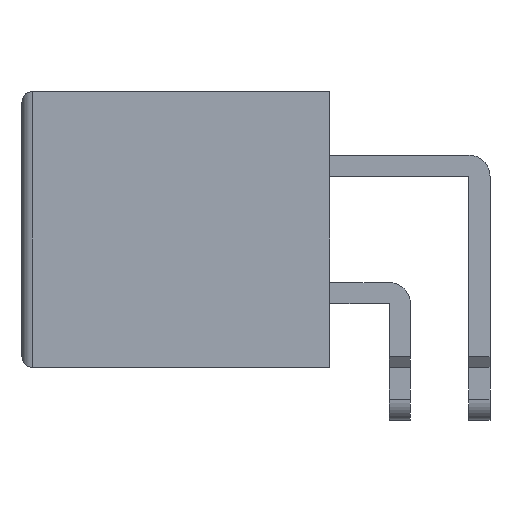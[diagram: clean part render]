
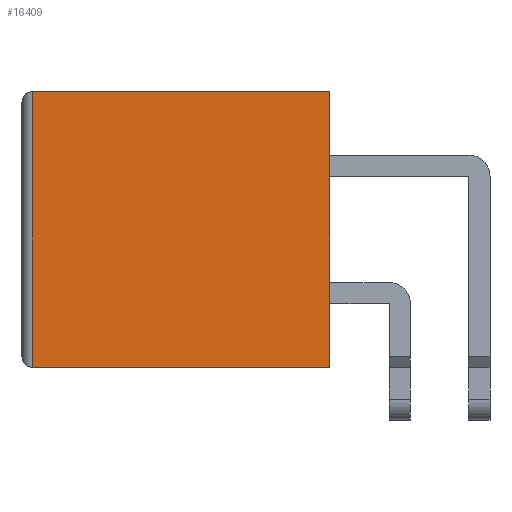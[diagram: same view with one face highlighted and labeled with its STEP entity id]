
A CAD part, left-side view. The second image highlights one B-rep face of the part: STEP entity #16409.
In plain terms, the highlighted planar face has unit normal (-1, 0, 0).
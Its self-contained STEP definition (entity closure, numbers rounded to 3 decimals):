
#2703=VERTEX_POINT('',#26781);
#2704=VERTEX_POINT('',#26785);
#2708=VERTEX_POINT('',#26797);
#2709=VERTEX_POINT('',#26803);
#4334=VECTOR('',#20460,1.);
#4338=VECTOR('',#20471,1.);
#4342=VECTOR('',#20476,1.);
#4343=VECTOR('',#20477,1.);
#5979=LINE('',#26784,#4334);
#5983=LINE('',#26796,#4338);
#5987=LINE('',#26802,#4342);
#5988=LINE('',#26804,#4343);
#8489=EDGE_CURVE('',#2704,#2703,#5979,.T.);
#8495=EDGE_CURVE('',#2708,#2703,#5983,.T.);
#8499=EDGE_CURVE('',#2704,#2709,#5987,.T.);
#8500=EDGE_CURVE('',#2709,#2708,#5988,.T.);
#13370=ORIENTED_EDGE('',*,*,#8489,.F.);
#13371=ORIENTED_EDGE('',*,*,#8499,.T.);
#13372=ORIENTED_EDGE('',*,*,#8500,.T.);
#13373=ORIENTED_EDGE('',*,*,#8495,.T.);
#14509=EDGE_LOOP('',(#13370,#13371,#13372,#13373));
#15489=FACE_BOUND('',#14509,.T.);
#16409=ADVANCED_FACE('',(#15489),#27342,.F.);
#17394=AXIS2_PLACEMENT_3D('',#26801,#20475,$);
#20460=DIRECTION('',(0.,0.,1.));
#20471=DIRECTION('',(0.,1.,0.));
#20475=DIRECTION('',(1.,0.,0.));
#20476=DIRECTION('',(0.,-1.,0.));
#20477=DIRECTION('',(0.,0.,1.));
#26781=CARTESIAN_POINT('',(0.,28.,0.));
#26784=CARTESIAN_POINT('',(0.,28.,-13.));
#26785=CARTESIAN_POINT('',(0.,28.,-26.));
#26796=CARTESIAN_POINT('',(0.,0.,0.));
#26797=CARTESIAN_POINT('',(0.,0.,0.));
#26801=CARTESIAN_POINT('',(0.,14.5,-13.));
#26802=CARTESIAN_POINT('',(0.,29.,-26.));
#26803=CARTESIAN_POINT('',(0.,0.,-26.));
#26804=CARTESIAN_POINT('',(0.,0.,-26.));
#27342=PLANE('',#17394);
